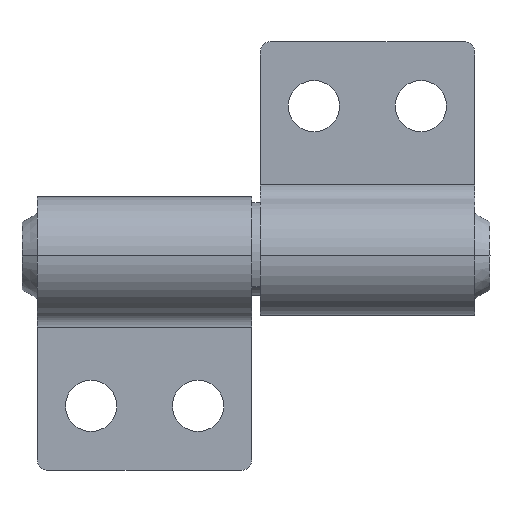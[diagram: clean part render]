
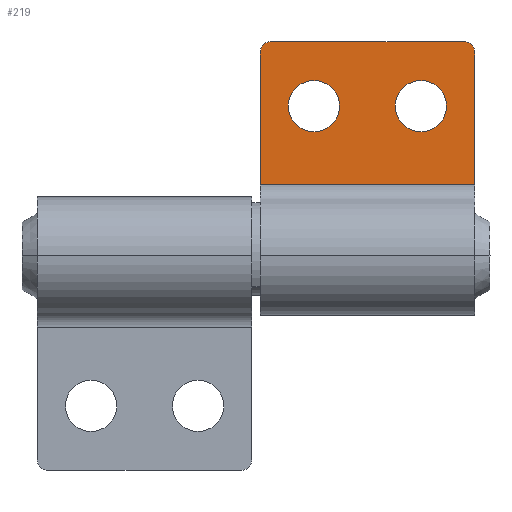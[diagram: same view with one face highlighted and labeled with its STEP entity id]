
A CAD part, top view. The second image highlights one B-rep face of the part: STEP entity #219.
In plain terms, the highlighted planar face has unit normal (0, 0, 1).
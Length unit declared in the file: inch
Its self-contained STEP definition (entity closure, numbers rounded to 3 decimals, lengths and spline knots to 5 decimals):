
#219=ADVANCED_FACE('',(#450,#451,#452),#453,.T.);
#450=FACE_BOUND('',#713,.T.);
#451=FACE_BOUND('',#714,.T.);
#452=FACE_OUTER_BOUND('',#715,.T.);
#453=PLANE('',#716);
#713=EDGE_LOOP('',(#1202,#1203));
#714=EDGE_LOOP('',(#1204,#1205));
#715=EDGE_LOOP('',(#1206,#1207,#1208,#1209,#1210,#1211,#1212,#1213));
#716=AXIS2_PLACEMENT_3D('',#1214,#1215,#1216);
#1202=ORIENTED_EDGE('',*,*,#1627,.T.);
#1203=ORIENTED_EDGE('',*,*,#1525,.T.);
#1204=ORIENTED_EDGE('',*,*,#1700,.T.);
#1205=ORIENTED_EDGE('',*,*,#1704,.T.);
#1206=ORIENTED_EDGE('',*,*,#1625,.F.);
#1207=ORIENTED_EDGE('',*,*,#1515,.T.);
#1208=ORIENTED_EDGE('',*,*,#1659,.F.);
#1209=ORIENTED_EDGE('',*,*,#1600,.F.);
#1210=ORIENTED_EDGE('',*,*,#1705,.T.);
#1211=ORIENTED_EDGE('',*,*,#1654,.F.);
#1212=ORIENTED_EDGE('',*,*,#1706,.T.);
#1213=ORIENTED_EDGE('',*,*,#1707,.F.);
#1214=CARTESIAN_POINT('',(-3.62884,-3.375,0.02362));
#1215=DIRECTION('',(0.,0.,1.0));
#1216=DIRECTION('',(0.,1.0,0.));
#1515=EDGE_CURVE('',#1791,#1795,#1797,.T.);
#1525=EDGE_CURVE('',#1808,#1813,#1815,.T.);
#1600=EDGE_CURVE('',#1940,#1936,#1942,.T.);
#1625=EDGE_CURVE('',#1791,#1977,#1981,.T.);
#1627=EDGE_CURVE('',#1813,#1808,#1983,.T.);
#1654=EDGE_CURVE('',#2019,#2017,#2021,.T.);
#1659=EDGE_CURVE('',#1936,#1795,#2026,.T.);
#1700=EDGE_CURVE('',#2085,#2082,#2086,.T.);
#1704=EDGE_CURVE('',#2082,#2085,#2091,.T.);
#1705=EDGE_CURVE('',#1940,#2017,#2092,.T.);
#1706=EDGE_CURVE('',#2019,#2093,#2094,.T.);
#1707=EDGE_CURVE('',#1977,#2093,#2095,.T.);
#1791=VERTEX_POINT('',#2195);
#1795=VERTEX_POINT('',#2201);
#1797=LINE('',#2204,#2205);
#1808=VERTEX_POINT('',#2220);
#1813=VERTEX_POINT('',#2226);
#1815=CIRCLE('',#2229,0.07475);
#1936=VERTEX_POINT('',#2374);
#1940=VERTEX_POINT('',#2379);
#1942=CIRCLE('',#2382,0.03);
#1977=VERTEX_POINT('',#2427);
#1981=CIRCLE('',#2432,0.03);
#1983=CIRCLE('',#2434,0.07475);
#2017=VERTEX_POINT('',#2477);
#2019=VERTEX_POINT('',#2479);
#2021=LINE('',#2481,#2482);
#2026=CIRCLE('',#2487,0.03);
#2082=VERTEX_POINT('',#2556);
#2085=VERTEX_POINT('',#2560);
#2086=CIRCLE('',#2561,0.07475);
#2091=CIRCLE('',#2567,0.07475);
#2092=LINE('',#2568,#2569);
#2093=VERTEX_POINT('',#2570);
#2094=LINE('',#2571,#2572);
#2095=CIRCLE('',#2573,0.03);
#2195=CARTESIAN_POINT('',(-3.65884,-3.375,0.02362));
#2201=CARTESIAN_POINT('',(-4.22384,-3.375,0.02362));
#2204=CARTESIAN_POINT('',(-3.62884,-3.375,0.02362));
#2205=VECTOR('',#2676,0.3937);
#2220=CARTESIAN_POINT('',(-3.78534,-3.63775,0.02362));
#2226=CARTESIAN_POINT('',(-3.78534,-3.48825,0.02362));
#2229=AXIS2_PLACEMENT_3D('',#2686,#2687,#2688);
#2374=CARTESIAN_POINT('',(-4.24506,-3.38379,0.02362));
#2379=CARTESIAN_POINT('',(-4.25384,-3.405,0.02362));
#2382=AXIS2_PLACEMENT_3D('',#2814,#2815,#2816);
#2427=CARTESIAN_POINT('',(-3.63763,-3.38379,0.02362));
#2432=AXIS2_PLACEMENT_3D('',#2849,#2850,#2851);
#2434=AXIS2_PLACEMENT_3D('',#2852,#2853,#2854);
#2477=CARTESIAN_POINT('',(-4.25384,-3.79227,0.02362));
#2479=CARTESIAN_POINT('',(-3.62884,-3.79227,0.02362));
#2481=CARTESIAN_POINT('',(-3.62884,-3.79227,0.02362));
#2482=VECTOR('',#2897,0.3937);
#2487=AXIS2_PLACEMENT_3D('',#2904,#2905,#2906);
#2556=CARTESIAN_POINT('',(-4.09734,-3.63775,0.02362));
#2560=CARTESIAN_POINT('',(-4.09734,-3.48825,0.02362));
#2561=AXIS2_PLACEMENT_3D('',#2966,#2967,#2968);
#2567=AXIS2_PLACEMENT_3D('',#2973,#2974,#2975);
#2568=CARTESIAN_POINT('',(-4.25384,-3.79227,0.02362));
#2569=VECTOR('',#2976,0.3937);
#2570=CARTESIAN_POINT('',(-3.62884,-3.405,0.02362));
#2571=CARTESIAN_POINT('',(-3.62884,-3.79227,0.02362));
#2572=VECTOR('',#2977,0.3937);
#2573=AXIS2_PLACEMENT_3D('',#2978,#2979,#2980);
#2676=DIRECTION('',(-1.0,0.,0.));
#2686=CARTESIAN_POINT('',(-3.78534,-3.563,0.02362));
#2687=DIRECTION('',(0.,0.,-1.0));
#2688=DIRECTION('',(0.,-1.0,0.));
#2814=CARTESIAN_POINT('',(-4.22384,-3.405,0.02362));
#2815=DIRECTION('',(0.,0.,-1.0));
#2816=DIRECTION('',(-0.707,0.707,0.));
#2849=CARTESIAN_POINT('',(-3.65884,-3.405,0.02362));
#2850=DIRECTION('',(0.,0.,-1.0));
#2851=DIRECTION('',(0.707,0.707,0.));
#2852=CARTESIAN_POINT('',(-3.78534,-3.563,0.02362));
#2853=DIRECTION('',(0.,0.,-1.0));
#2854=DIRECTION('',(0.,-1.0,0.));
#2897=DIRECTION('',(-1.0,0.,0.));
#2904=CARTESIAN_POINT('',(-4.22384,-3.405,0.02362));
#2905=DIRECTION('',(0.,0.,-1.0));
#2906=DIRECTION('',(-0.707,0.707,0.));
#2966=CARTESIAN_POINT('',(-4.09734,-3.563,0.02362));
#2967=DIRECTION('',(0.,0.,-1.0));
#2968=DIRECTION('',(0.,-1.0,0.));
#2973=CARTESIAN_POINT('',(-4.09734,-3.563,0.02362));
#2974=DIRECTION('',(0.,0.,-1.0));
#2975=DIRECTION('',(0.,-1.0,0.));
#2976=DIRECTION('',(0.,-1.0,0.));
#2977=DIRECTION('',(0.,1.0,0.));
#2978=CARTESIAN_POINT('',(-3.65884,-3.405,0.02362));
#2979=DIRECTION('',(0.,0.,-1.0));
#2980=DIRECTION('',(0.707,0.707,0.));
